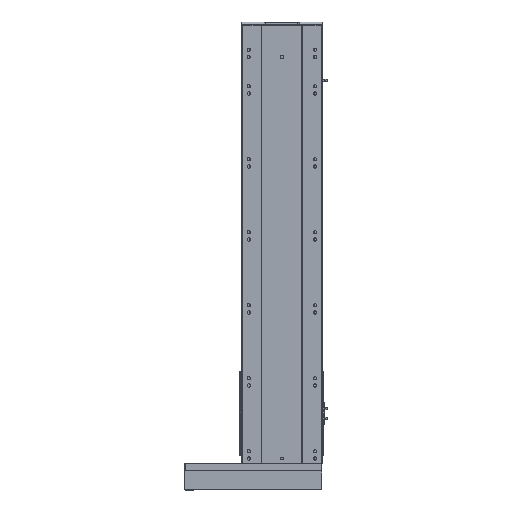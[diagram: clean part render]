
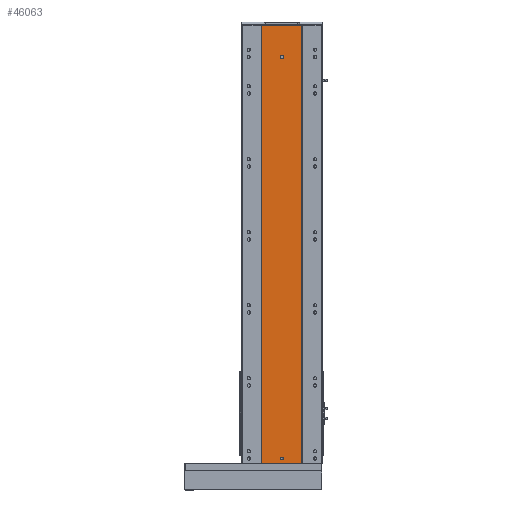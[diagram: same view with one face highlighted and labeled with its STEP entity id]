
A CAD part, top view. The second image highlights one B-rep face of the part: STEP entity #46063.
In plain terms, the highlighted planar face has unit normal (0, 0, 1).
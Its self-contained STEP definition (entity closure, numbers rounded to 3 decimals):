
#759 = VERTEX_POINT ( 'NONE', #19648 ) ;
#1028 = DIRECTION ( 'NONE',  ( 0., 0., 1. ) ) ;
#5995 = ORIENTED_EDGE ( 'NONE', *, *, #72506, .F. ) ;
#6505 = CARTESIAN_POINT ( 'NONE',  ( 55., 1201., 58. ) ) ;
#7679 = CARTESIAN_POINT ( 'NONE',  ( -4., 1113., 58. ) ) ;
#8889 = ORIENTED_EDGE ( 'NONE', *, *, #115117, .F. ) ;
#11313 = DIRECTION ( 'NONE',  ( 0., 1., 0. ) ) ;
#11339 = VERTEX_POINT ( 'NONE', #7679 ) ;
#12971 = CARTESIAN_POINT ( 'NONE',  ( 4., 14., 58. ) ) ;
#15938 = LINE ( 'NONE', #19644, #115629 ) ;
#16977 = AXIS2_PLACEMENT_3D ( 'NONE', #116657, #1028, #97576 ) ;
#17792 = DIRECTION ( 'NONE',  ( 1., 0., 0. ) ) ;
#19258 = EDGE_CURVE ( 'NONE', #68016, #23767, #101064, .T. ) ;
#19644 = CARTESIAN_POINT ( 'NONE',  ( -4., 1113., 58. ) ) ;
#19648 = CARTESIAN_POINT ( 'NONE',  ( -55., 1201., 58. ) ) ;
#22534 = DIRECTION ( 'NONE',  ( -1., 0., 0. ) ) ;
#23767 = VERTEX_POINT ( 'NONE', #12971 ) ;
#28584 = CARTESIAN_POINT ( 'NONE',  ( -55., 0., 58. ) ) ;
#31858 = LINE ( 'NONE', #118147, #34828 ) ;
#34063 = ORIENTED_EDGE ( 'NONE', *, *, #69231, .T. ) ;
#34828 = VECTOR ( 'NONE', #109445, 1000. ) ;
#37969 = VERTEX_POINT ( 'NONE', #118422 ) ;
#39056 = VECTOR ( 'NONE', #62007, 1000. ) ;
#39363 = FACE_BOUND ( 'NONE', #47325, .T. ) ;
#45890 = CARTESIAN_POINT ( 'NONE',  ( 4., 1115., 58. ) ) ;
#46063 = ADVANCED_FACE ( 'NONE', ( #97430, #39363, #81012 ), #116970, .F. ) ;
#47325 = EDGE_LOOP ( 'NONE', ( #52507, #65854, #58274, #116167 ) ) ;
#47369 = VERTEX_POINT ( 'NONE', #45890 ) ;
#47370 = EDGE_CURVE ( 'NONE', #11339, #83996, #122498, .T. ) ;
#48048 = LINE ( 'NONE', #28584, #116564 ) ;
#48738 = AXIS2_PLACEMENT_3D ( 'NONE', #60801, #51663, #22534 ) ;
#51663 = DIRECTION ( 'NONE',  ( 0., 0., -1. ) ) ;
#52507 = ORIENTED_EDGE ( 'NONE', *, *, #103158, .F. ) ;
#52599 = DIRECTION ( 'NONE',  ( 0., 0., 1. ) ) ;
#53839 = VECTOR ( 'NONE', #120142, 1000. ) ;
#55379 = VERTEX_POINT ( 'NONE', #81609 ) ;
#58274 = ORIENTED_EDGE ( 'NONE', *, *, #84134, .F. ) ;
#58337 = CARTESIAN_POINT ( 'NONE',  ( 4., 1113., 58. ) ) ;
#60801 = CARTESIAN_POINT ( 'NONE',  ( -55., 1201., 58. ) ) ;
#62007 = DIRECTION ( 'NONE',  ( 1., 0., 0. ) ) ;
#65854 = ORIENTED_EDGE ( 'NONE', *, *, #47370, .F. ) ;
#66153 = CIRCLE ( 'NONE', #16977, 4. ) ;
#66879 = EDGE_CURVE ( 'NONE', #47369, #55379, #66153, .T. ) ;
#67912 = DIRECTION ( 'NONE',  ( 0., 0., 1. ) ) ;
#68016 = VERTEX_POINT ( 'NONE', #94338 ) ;
#69231 = EDGE_CURVE ( 'NONE', #759, #37969, #79085, .T. ) ;
#72506 = EDGE_CURVE ( 'NONE', #23767, #68016, #86028, .T. ) ;
#72897 = DIRECTION ( 'NONE',  ( 0., 0., 1. ) ) ;
#73508 = CARTESIAN_POINT ( 'NONE',  ( -55., 1201., 58. ) ) ;
#73715 = CARTESIAN_POINT ( 'NONE',  ( 0., 14., 58. ) ) ;
#79085 = LINE ( 'NONE', #73508, #53839 ) ;
#81012 = FACE_OUTER_BOUND ( 'NONE', #106596, .T. ) ;
#81609 = CARTESIAN_POINT ( 'NONE',  ( -4., 1115., 58. ) ) ;
#81870 = ORIENTED_EDGE ( 'NONE', *, *, #87416, .T. ) ;
#83996 = VERTEX_POINT ( 'NONE', #92091 ) ;
#84134 = EDGE_CURVE ( 'NONE', #55379, #11339, #15938, .T. ) ;
#86028 = CIRCLE ( 'NONE', #108348, 4. ) ;
#87416 = EDGE_CURVE ( 'NONE', #37969, #107157, #48048, .T. ) ;
#89658 = LINE ( 'NONE', #110637, #39056 ) ;
#92091 = CARTESIAN_POINT ( 'NONE',  ( 4., 1113., 58. ) ) ;
#92343 = AXIS2_PLACEMENT_3D ( 'NONE', #73715, #72897, #101681 ) ;
#94338 = CARTESIAN_POINT ( 'NONE',  ( -4., 14., 58. ) ) ;
#97430 = FACE_BOUND ( 'NONE', #103729, .T. ) ;
#97576 = DIRECTION ( 'NONE',  ( 1., 0., 0. ) ) ;
#98986 = VECTOR ( 'NONE', #11313, 1000. ) ;
#100426 = LINE ( 'NONE', #58337, #98986 ) ;
#100814 = EDGE_CURVE ( 'NONE', #113104, #107157, #31858, .T. ) ;
#101064 = CIRCLE ( 'NONE', #92343, 4. ) ;
#101681 = DIRECTION ( 'NONE',  ( 1., 0., 0. ) ) ;
#103158 = EDGE_CURVE ( 'NONE', #83996, #47369, #100426, .T. ) ;
#103729 = EDGE_LOOP ( 'NONE', ( #5995, #106783 ) ) ;
#104562 = DIRECTION ( 'NONE',  ( 0., -1., 0. ) ) ;
#106596 = EDGE_LOOP ( 'NONE', ( #81870, #114611, #8889, #34063 ) ) ;
#106783 = ORIENTED_EDGE ( 'NONE', *, *, #19258, .F. ) ;
#107157 = VERTEX_POINT ( 'NONE', #117213 ) ;
#108348 = AXIS2_PLACEMENT_3D ( 'NONE', #109181, #52599, #119112 ) ;
#109181 = CARTESIAN_POINT ( 'NONE',  ( 0., 14., 58. ) ) ;
#109445 = DIRECTION ( 'NONE',  ( 0., -1., 0. ) ) ;
#110637 = CARTESIAN_POINT ( 'NONE',  ( -55., 1201., 58. ) ) ;
#113104 = VERTEX_POINT ( 'NONE', #6505 ) ;
#114120 = CARTESIAN_POINT ( 'NONE',  ( 0., 1113., 58. ) ) ;
#114611 = ORIENTED_EDGE ( 'NONE', *, *, #100814, .F. ) ;
#115117 = EDGE_CURVE ( 'NONE', #759, #113104, #89658, .T. ) ;
#115312 = DIRECTION ( 'NONE',  ( 1., 0., 0. ) ) ;
#115629 = VECTOR ( 'NONE', #104562, 1000. ) ;
#116167 = ORIENTED_EDGE ( 'NONE', *, *, #66879, .F. ) ;
#116564 = VECTOR ( 'NONE', #17792, 1000. ) ;
#116657 = CARTESIAN_POINT ( 'NONE',  ( 0., 1115., 58. ) ) ;
#116970 = PLANE ( 'NONE',  #48738 ) ;
#117213 = CARTESIAN_POINT ( 'NONE',  ( 55., 0., 58. ) ) ;
#118147 = CARTESIAN_POINT ( 'NONE',  ( 55., 1201., 58. ) ) ;
#118422 = CARTESIAN_POINT ( 'NONE',  ( -55., 0., 58. ) ) ;
#119112 = DIRECTION ( 'NONE',  ( 1., 0., 0. ) ) ;
#120142 = DIRECTION ( 'NONE',  ( 0., -1., 0. ) ) ;
#120852 = AXIS2_PLACEMENT_3D ( 'NONE', #114120, #67912, #115312 ) ;
#122498 = CIRCLE ( 'NONE', #120852, 4. ) ;
